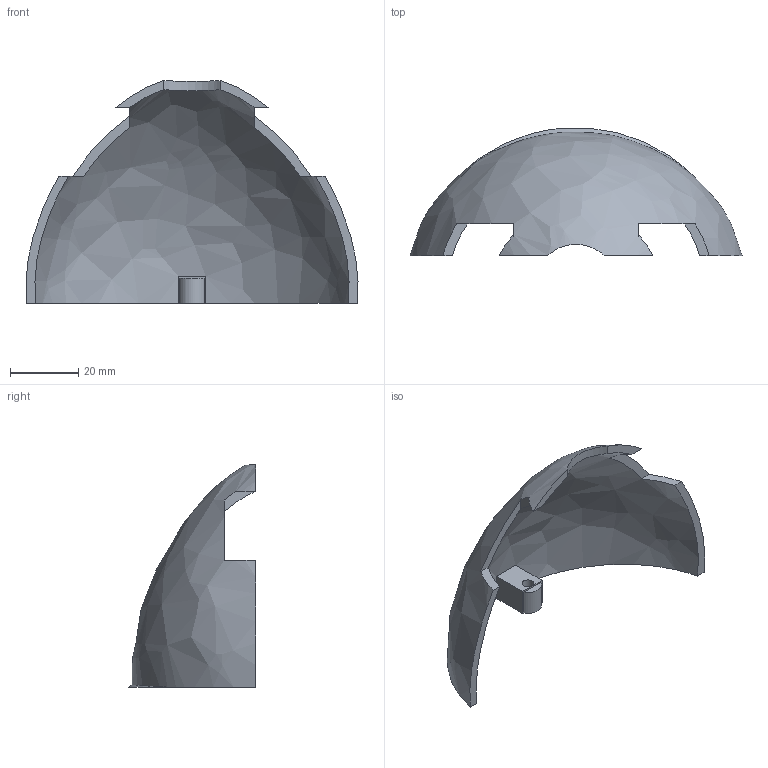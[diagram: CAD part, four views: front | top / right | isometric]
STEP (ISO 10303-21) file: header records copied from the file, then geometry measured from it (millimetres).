
FILE_DESCRIPTION(('FreeCAD Model'),'2;1');
FILE_NAME('Open CASCADE Shape Model','2026-11-20T08:25:33',('FreeCAD'),( 'FreeCAD'),'Open CASCADE STEP processor 7.8','FreeCAD','Unknown');
FILE_SCHEMA(('AUTOMOTIVE_DESIGN { 1 0 10303 214 1 1 1 1 }'));
Length unit declared in the file: millimetre
Products named in the file (1): Open CASCADE STEP translator 7.8 10
Bounding box: 97.02 x 37.3 x 65.17 mm (x, y, z)
Volume: 16010.3 mm3; surface area: 14184.5 mm2
Topology: 1 solids, 1 shells, 24 faces, 70 edges, 48 vertices
Faces by surface type: plane 18, cylinder 3, bspline 3
Full cylindrical faces by diameter (mm): 3.4 x1
Entity records: 4143 total; most frequent: CARTESIAN_POINT 3568, ORIENTED_EDGE 140, DIRECTION 81, EDGE_CURVE 70, VERTEX_POINT 48, B_SPLINE_CURVE_WITH_KNOTS 37, LINE 29, VECTOR 29
